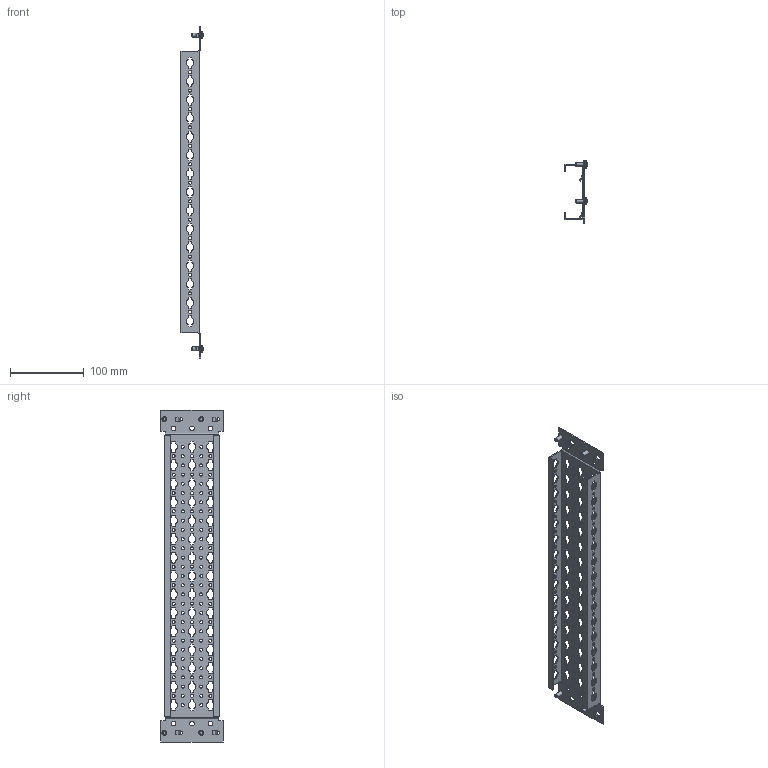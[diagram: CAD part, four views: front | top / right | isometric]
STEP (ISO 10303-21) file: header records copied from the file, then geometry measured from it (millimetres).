
FILE_DESCRIPTION(('Open CASCADE Model'),'2;1');
FILE_NAME('Open CASCADE Shape Model','2025-02-24T09:57:48',('Author'),( 'Open CASCADE'),'Open CASCADE STEP processor 7.8','Open CASCADE 7.8' ,'Unknown');
FILE_SCHEMA(('AUTOMOTIVE_DESIGN { 1 0 10303 214 1 1 1 1 }'));
Length unit declared in the file: millimetre
Products named in the file (3): Compound1; Solid1; Solid2
Assembly tree (5 placements, depth 2):
  Compound1
    Solid1
    Solid2  x4
Bounding box: 30.36 x 85 x 450.04 mm (x, y, z)
Volume: 73612.1 mm3; surface area: 107291.4 mm2
Topology: 5 solids, 5 shells, 1576 faces, 4627 edges, 3065 vertices
Faces by surface type: cylinder 904, plane 648, torus 8, cone 8, sphere 4, bspline 4
Full cylindrical faces by diameter (mm): 4.2 x128, 5 x4, 6.5 x10, 9.5 x4
Entity records: 52974 total; most frequent: CARTESIAN_POINT 9594, DIRECTION 9268, ORIENTED_EDGE 9072, EDGE_CURVE 4536, AXIS2_PLACEMENT_3D 3352, VERTEX_POINT 3014, LINE 2564, VECTOR 2564
